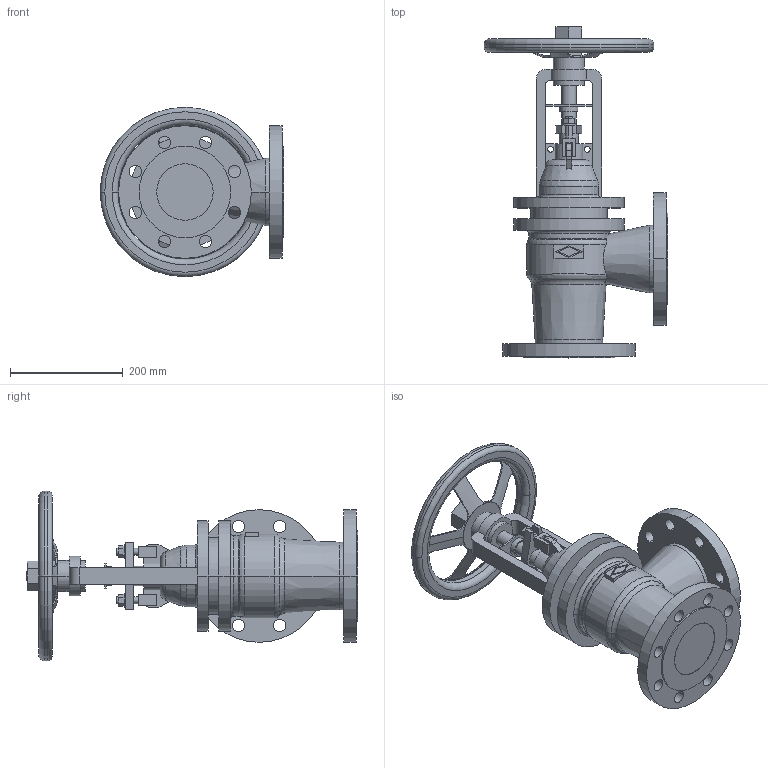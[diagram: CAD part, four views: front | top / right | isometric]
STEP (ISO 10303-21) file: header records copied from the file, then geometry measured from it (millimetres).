
FILE_DESCRIPTION(('OneSpaceDesigner STEP Export'),'2;1');
FILE_NAME('c000004453.stp','2010-05-17T 9:55:43',(''),(''),'OneSpace Designer STEP processor for AP214 (Solid Model)','OneSpace Modeling 15.50B 03-Nov-2007 (C) CoCreate Software GmbH','');
FILE_SCHEMA(('AUTOMOTIVE_DESIGN { 1 0 10303 214 1 1 1 1 }'));
Length unit declared in the file: millimetre
Products named in the file (1): 1
Bounding box: 325 x 587.7 x 300 mm (x, y, z)
Volume: 8789175.1 mm3; surface area: 655545.1 mm2
Topology: 1 solids, 1 shells, 343 faces, 930 edges, 610 vertices
Faces by surface type: cylinder 150, plane 145, torus 32, cone 16
Entity records: 14068 total; most frequent: CARTESIAN_POINT 3199, ORIENTED_EDGE 1860, DIRECTION 1446, EDGE_CURVE 930, VERTEX_POINT 610, AXIS2_PLACEMENT_3D 505, VECTOR 436, LINE 436
